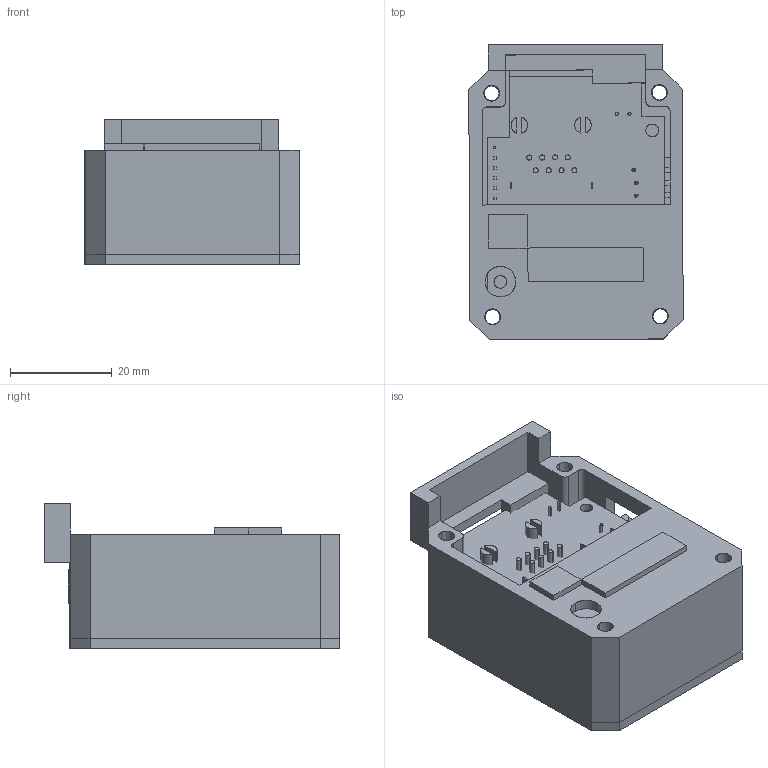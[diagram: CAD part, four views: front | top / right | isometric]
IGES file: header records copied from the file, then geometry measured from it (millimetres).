
Start section: SolidWorks IGES file using analytic representation for surfaces
Global section: file name: C:\Users\render\Documents\CAD Files\CoolmuscleMotors\CM1-InterfaceOptions\CM1-IPX\CM1IPX.IGS; native system: SolidWorks 2009; preprocessor: SolidWorks 2009; author: render; date: 100625.133725; units: millimetre
Bounding box: 42.18 x 58.14 x 28.5 mm (x, y, z)
Surface area: 25420.7 mm2 (no closed solid volume)
Topology: 0 solids, 0 shells, 1152 faces, 8833 edges, 8815 vertices
Faces by surface type: bspline 1014, revolution 138
